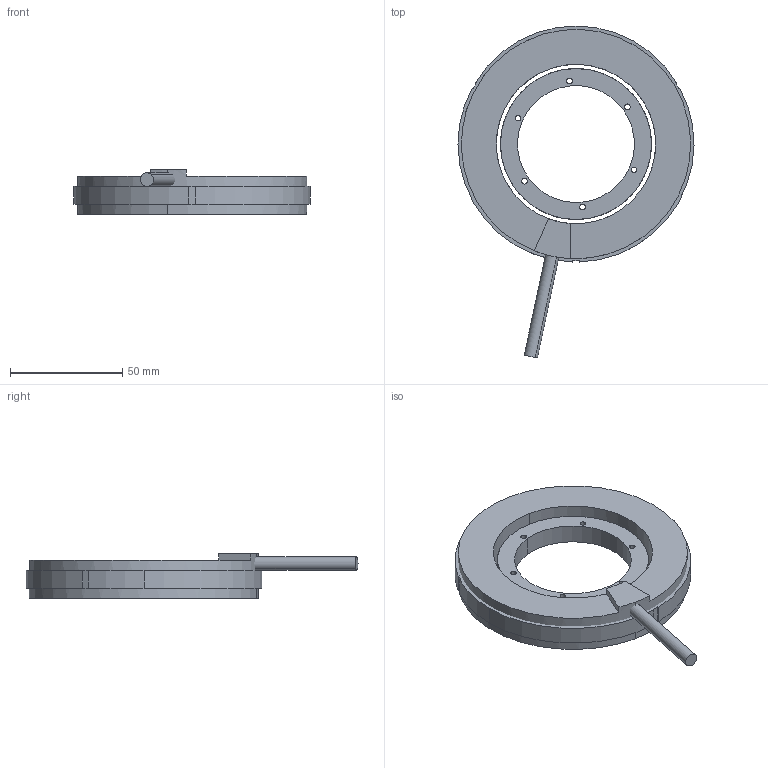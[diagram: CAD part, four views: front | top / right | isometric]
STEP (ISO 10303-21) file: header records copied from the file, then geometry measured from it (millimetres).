
FILE_DESCRIPTION (( 'STEP AP203' ), '1' );
FILE_NAME ('TMXSL 105-17 KIT 3D.STEP', '2021-06-08T00:40:10', ( '' ), ( '' ), 'SwSTEP 2.0', 'SolidWorks 2021', '' );
FILE_SCHEMA (( 'CONFIG_CONTROL_DESIGN' ));
Length unit declared in the file: millimetre
Products named in the file (1): TMXSL 105-17 KIT 3D
Bounding box: 104.99 x 147.69 x 20 mm (x, y, z)
Volume: 96611.4 mm3; surface area: 33310.6 mm2
Topology: 4 solids, 4 shells, 255 faces, 650 edges, 420 vertices
Faces by surface type: plane 178, cylinder 77
Entity records: 7881 total; most frequent: DIRECTION 1444, CARTESIAN_POINT 1326, ORIENTED_EDGE 1300, EDGE_CURVE 650, AXIS2_PLACEMENT_3D 538, VERTEX_POINT 420, VECTOR 368, LINE 368
